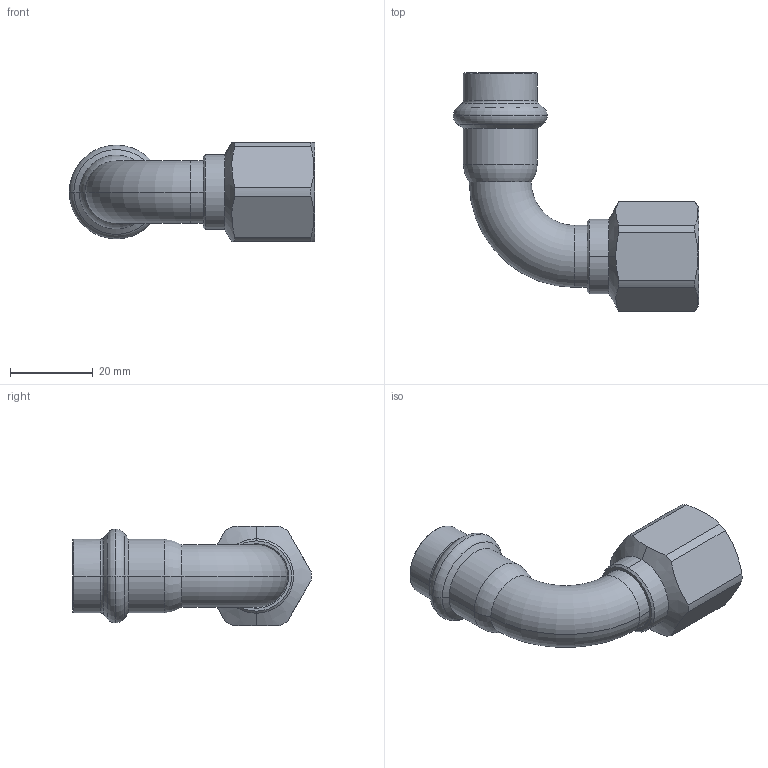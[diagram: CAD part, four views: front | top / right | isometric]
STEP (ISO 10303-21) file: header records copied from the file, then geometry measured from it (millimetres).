
FILE_DESCRIPTION(('CoCreate Modeling STEP Export'),'2;1');
FILE_NAME('8090GVW1512.stp','2013-03-05T11:34:01',(''),(''),'CoCreate Modeling STEP processor for AP214 (Solid Model)','CoCreate Modeling 17.00A 17-Jun-2010 (C) Parametric Technology GmbH','');
FILE_SCHEMA(('AUTOMOTIVE_DESIGN { 1 0 10303 214 1 1 1 1 }'));
Length unit declared in the file: millimetre
Products named in the file (2): 8090GVW1512
Assembly tree (1 placements, depth 2):
  8090GVW1512
    8090GVW1512
Bounding box: 59.35 x 57.73 x 24 mm (x, y, z)
Volume: 9749.6 mm3; surface area: 9785.6 mm2
Topology: 1 solids, 1 shells, 84 faces, 189 edges, 111 vertices
Faces by surface type: cylinder 32, cone 24, torus 16, plane 12
Entity records: 2762 total; most frequent: CARTESIAN_POINT 1127, ORIENTED_EDGE 378, DIRECTION 270, EDGE_CURVE 189, VERTEX_POINT 111, AXIS2_PLACEMENT_3D 104, EDGE_LOOP 90, FACE_OUTER_BOUND 84
